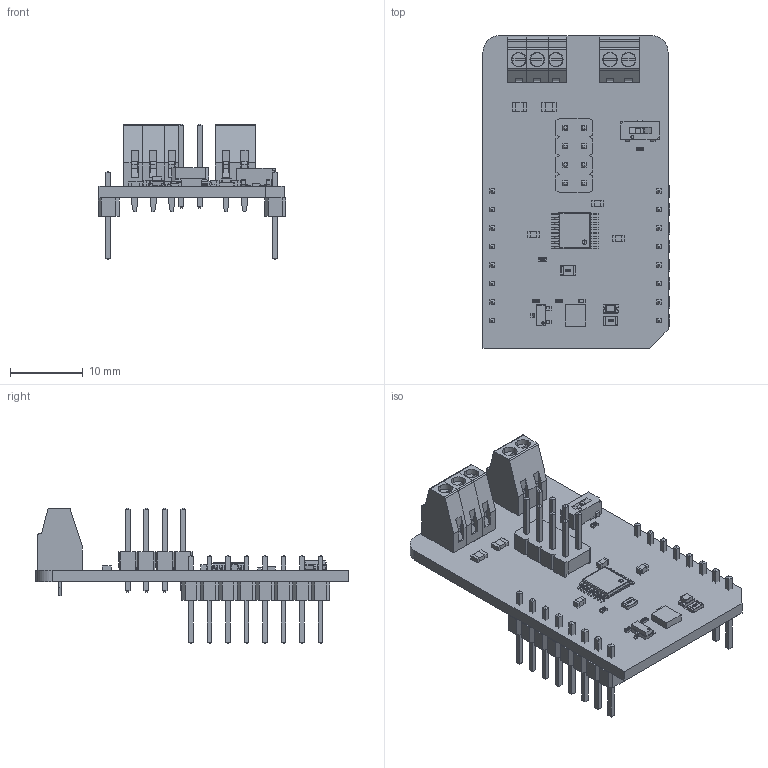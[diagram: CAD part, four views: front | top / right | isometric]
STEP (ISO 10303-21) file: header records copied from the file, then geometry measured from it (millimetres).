
FILE_DESCRIPTION(('Open CASCADE Model'),'2;1');
FILE_NAME('Open CASCADE Shape Model','2026-05-28T12:28:09',('Author'),( 'Open CASCADE'),'Open CASCADE STEP processor 6.8','Open CASCADE 6.8' ,'Unknown');
FILE_SCHEMA(('AUTOMOTIVE_DESIGN { 1 0 10303 214 1 1 1 1 }'));
Length unit declared in the file: millimetre
Products named in the file (47): PCB; Board; R5; User_Library-R_0402; U2; User_Library-TSSOP-16; TB1; ScrewTerminal_2.54; SW1; Cas-120a1; User_Library-cas-120a1_cas-120_body; User_Library-cas-120a1_cas-120_actuator; User_Library-cas-120a1_lead; R3; J1; HM2x4; 6130xx21121_PIN; 61300821121; CN1; C6; User_Library-SMD_CAPACITOR0603; C5; User_Library-SMD_CAPACITOR0805; C4; C3; C2; JP1; User_Library-R_0805; MBD1; Header_1x8; Free-Models; 1240637040; User_Library-PinHeaderX5-1_PinHeaderX5_Body_1; User_Library-PinHeaderX5-1_PinHeaderX5_Pins_1; U1; 1222054736; Extruded; Q1; SOT23-3; R4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
Assembly tree (66 placements, depth 7):
  PCB
    Board
    R5
      User_Library-R_0402
    U2
      User_Library-TSSOP-16
    TB1
      ScrewTerminal_2.54
    SW1
      Cas-120a1
        User_Library-cas-120a1_cas-120_body
        User_Library-cas-120a1_cas-120_actuator
        User_Library-cas-120a1_lead  x3
    R3
      User_Library-R_0402
    J1
      HM2x4
        6130xx21121_PIN  x8
        61300821121
    CN1
      ScrewTerminal_2.54  x2
    C6
      User_Library-SMD_CAPACITOR0603
    C5
      User_Library-SMD_CAPACITOR0805
    C4
      User_Library-SMD_CAPACITOR0603
    C3
      User_Library-SMD_CAPACITOR0805
    C2
      User_Library-SMD_CAPACITOR0603
    JP1
      User_Library-R_0805
    MBD1
      Header_1x8  x2
        PCB
          Free-Models
            1240637040  x2
              User_Library-PinHeaderX5-1_PinHeaderX5_Body_1
              User_Library-PinHeaderX5-1_PinHeaderX5_Pins_1
    U1
      1222054736
        Extruded
    Q1
      SOT23-3
    R4
      User_Library-R_0402
    C1
      User_Library-SMD_CAPACITOR0402
    R2
      User_Library-R_0402
    LD1
      led_0805_green
    R1
      User_Library-R_0805
Bounding box: 25.78 x 42.93 x 18.65 mm (x, y, z)
Volume: 2934.4 mm3; surface area: 6492.2 mm2
Topology: 78 solids, 78 shells, 2428 faces, 6137 edges, 3881 vertices
Faces by surface type: plane 1828, cylinder 348, bspline 188, sphere 64
Entity records: 43584 total; most frequent: CARTESIAN_POINT 10432, ORIENTED_EDGE 5796, DIRECTION 5431, EDGE_CURVE 2898, LINE 2315, VECTOR 2315, VERTEX_POINT 1847, AXIS2_PLACEMENT_3D 1558
